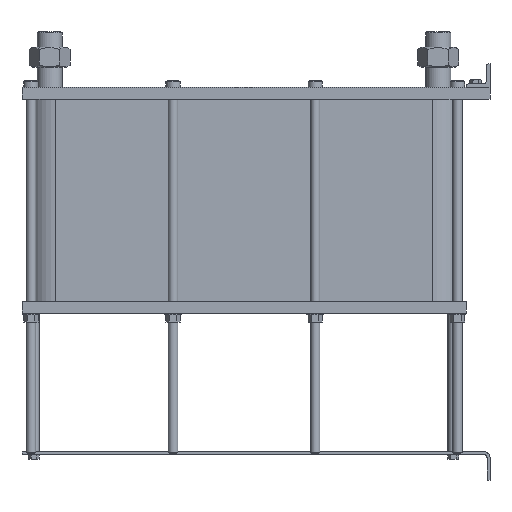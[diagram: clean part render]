
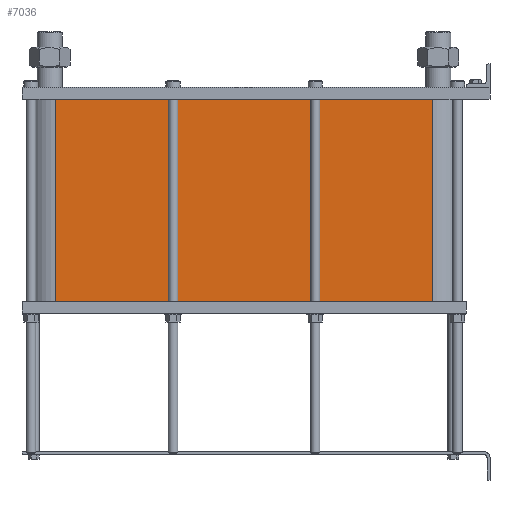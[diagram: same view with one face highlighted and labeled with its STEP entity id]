
A CAD part, left-side view. The second image highlights one B-rep face of the part: STEP entity #7036.
In plain terms, the highlighted planar face has unit normal (-1, 0, 0).
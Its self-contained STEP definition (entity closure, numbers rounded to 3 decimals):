
#999=LINE('',#15640,#1553);
#1031=LINE('',#15723,#1585);
#1032=LINE('',#15726,#1586);
#1033=LINE('',#15727,#1587);
#1553=VECTOR('',#9658,10.);
#1585=VECTOR('',#9736,10.);
#1586=VECTOR('',#9741,10.);
#1587=VECTOR('',#9742,10.);
#2117=FACE_OUTER_BOUND('',#2671,.T.);
#2671=EDGE_LOOP('',(#6246,#6247,#6248,#6249));
#3527=VERTEX_POINT('',#15634);
#3529=VERTEX_POINT('',#15638);
#3556=VERTEX_POINT('',#15720);
#3557=VERTEX_POINT('',#15722);
#4425=EDGE_CURVE('',#3529,#3527,#999,.T.);
#4466=EDGE_CURVE('',#3557,#3556,#1031,.T.);
#4468=EDGE_CURVE('',#3527,#3556,#1032,.T.);
#4469=EDGE_CURVE('',#3557,#3529,#1033,.T.);
#6246=ORIENTED_EDGE('',*,*,#4468,.F.);
#6247=ORIENTED_EDGE('',*,*,#4425,.F.);
#6248=ORIENTED_EDGE('',*,*,#4469,.F.);
#6249=ORIENTED_EDGE('',*,*,#4466,.T.);
#6608=PLANE('',#7812);
#7036=ADVANCED_FACE('',(#2117),#6608,.T.);
#7812=AXIS2_PLACEMENT_3D('',#15725,#9739,#9740);
#9658=DIRECTION('',(0.,0.,-1.));
#9736=DIRECTION('',(0.,0.,-1.));
#9739=DIRECTION('center_axis',(-1.,0.,0.));
#9740=DIRECTION('ref_axis',(0.,1.,0.));
#9741=DIRECTION('',(0.,1.,0.));
#9742=DIRECTION('',(0.,-1.,0.));
#15634=CARTESIAN_POINT('',(-72.,97.5,-341.));
#15638=CARTESIAN_POINT('',(-72.,97.5,0.));
#15640=CARTESIAN_POINT('',(-72.,97.5,0.));
#15720=CARTESIAN_POINT('',(-72.,733.5,-341.));
#15722=CARTESIAN_POINT('',(-72.,733.5,0.));
#15723=CARTESIAN_POINT('',(-72.,733.5,0.));
#15725=CARTESIAN_POINT('Origin',(-72.,97.5,0.));
#15726=CARTESIAN_POINT('',(-72.,256.5,-341.));
#15727=CARTESIAN_POINT('',(-72.,733.5,0.));
